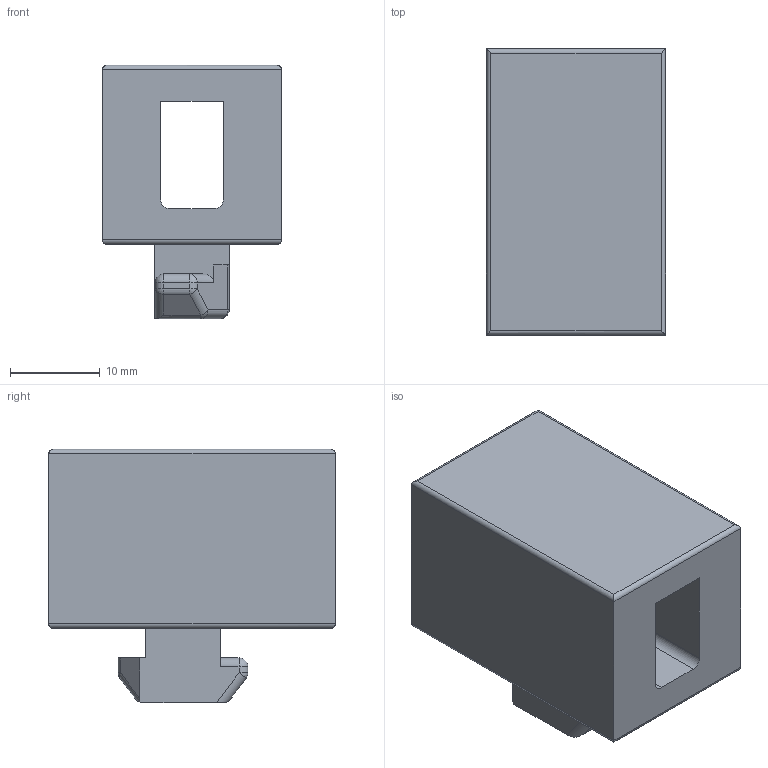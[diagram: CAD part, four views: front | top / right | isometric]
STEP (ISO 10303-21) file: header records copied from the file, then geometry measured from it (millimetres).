
FILE_DESCRIPTION(/* description */ (''),/* implementation_level */ '2;1');
FILE_NAME(/* name */ 'C:\Users\Owner\Documents\硯聰\Inv材料庫-3D新型錄\螺絲\8系列\B08a.stp',/* time_stamp */ '2019-03-08T17:19:45+08:00',/* author */ ('Owner'),/* organization */ (''),/* preprocessor_version */ 'ST-DEVELOPER v16.1',/* originating_system */ 'Autodesk Inventor 2016',/* authorisation */ '');
FILE_SCHEMA (('AUTOMOTIVE_DESIGN { 1 0 10303 214 3 1 1 }'));
Length unit declared in the file: millimetre
Products named in the file (1): B08
Bounding box: 20 x 32 x 28.3 mm (x, y, z)
Volume: 10826 mm3; surface area: 4687.2 mm2
Topology: 1 solids, 1 shells, 59 faces, 136 edges, 80 vertices
Faces by surface type: cylinder 27, plane 24, sphere 8
Entity records: 1676 total; most frequent: DIRECTION 303, CARTESIAN_POINT 276, ORIENTED_EDGE 272, EDGE_CURVE 136, AXIS2_PLACEMENT_3D 107, LINE 89, VECTOR 89, VERTEX_POINT 80
